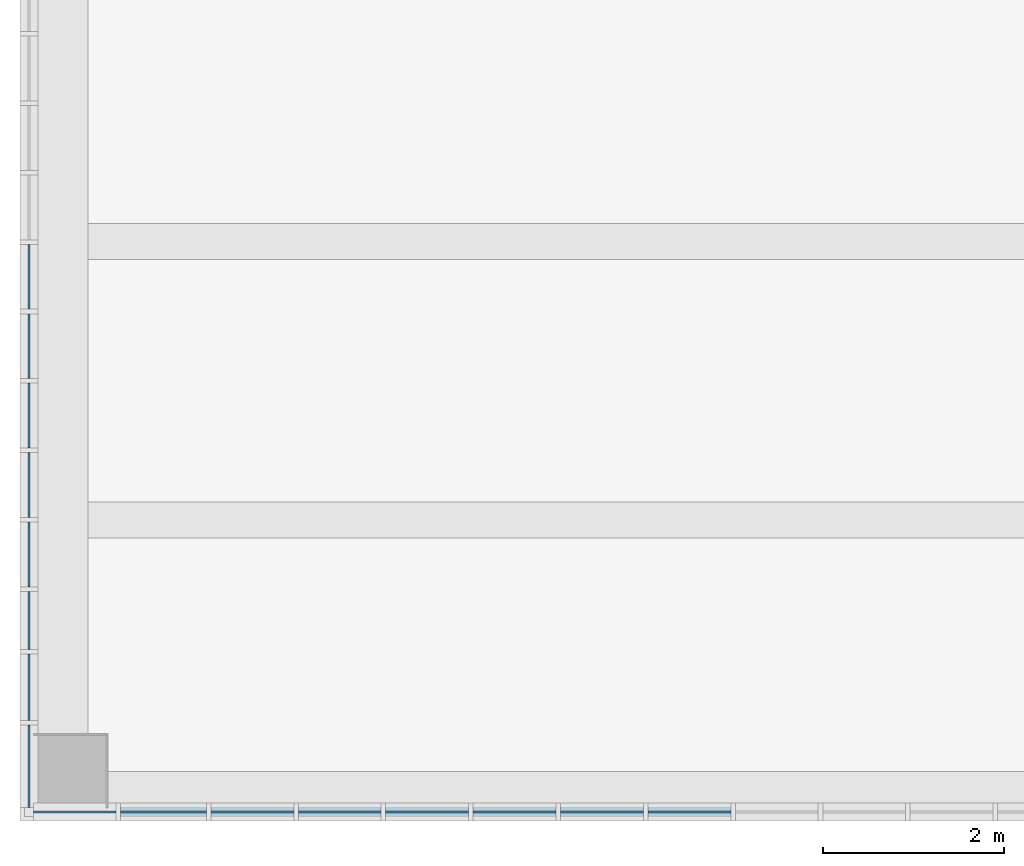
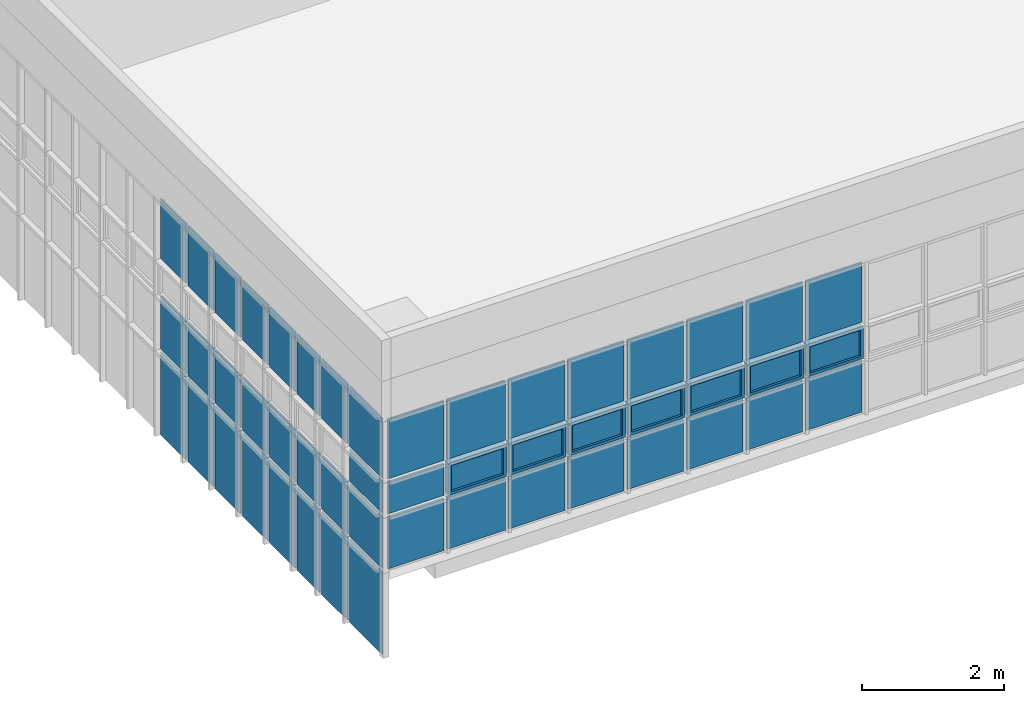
# One storey, part 24 of 81: 49 plates, 2 elements without a shape of their own.
"""IFC2X3 building model written with IfcOpenShell, lengths in millimetres."""

from ifc_helpers import new_model, entity, si_unit, converted_unit, derived_unit, direction, frame, origin, origin_2d_with_axis, place, context, subcontext, project, spatial, polyline, rectangle, outline, extrude, source, transform, mapped, material, material_list, type_object, type_shapes, element, aggregate, save


model = new_model("IFC2X3")

# Units and contexts
model_context = context("Model", 3, precision=0.01, world=origin(), true_north=direction((6.123031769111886e-17, 1.0)))
body_context = subcontext(model_context, "Body", "Model", "MODEL_VIEW")
ifc_project = project(units=[si_unit("LENGTHUNIT", "METRE", prefix="MILLI"), si_unit("AREAUNIT", "SQUARE_METRE"), si_unit("VOLUMEUNIT", "CUBIC_METRE"), converted_unit("PLANEANGLEUNIT", "DEGREE", entity("IfcRatioMeasure", 0.017453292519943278), si_unit("PLANEANGLEUNIT", "RADIAN"), dimensions=[0, 0, 0, 0, 0, 0, 0]), si_unit("MASSUNIT", "GRAM", prefix="KILO"), derived_unit("MASSDENSITYUNIT", [(si_unit("MASSUNIT", "GRAM", prefix="KILO"), 1), (si_unit("LENGTHUNIT", "METRE"), -3)]), derived_unit("MOMENTOFINERTIAUNIT", [(si_unit("LENGTHUNIT", "METRE"), 4)]), si_unit("TIMEUNIT", "SECOND"), si_unit("FREQUENCYUNIT", "HERTZ"), si_unit("THERMODYNAMICTEMPERATUREUNIT", "DEGREE_CELSIUS"), derived_unit("THERMALTRANSMITTANCEUNIT", [(si_unit("MASSUNIT", "GRAM", prefix="KILO"), 1), (si_unit("THERMODYNAMICTEMPERATUREUNIT", "KELVIN"), -1), (si_unit("TIMEUNIT", "SECOND"), -3)]), derived_unit("VOLUMETRICFLOWRATEUNIT", [(si_unit("LENGTHUNIT", "METRE"), 3), (si_unit("TIMEUNIT", "SECOND"), -1)]), derived_unit("MASSFLOWRATEUNIT", [(si_unit("MASSUNIT", "GRAM", prefix="KILO"), 1), (si_unit("TIMEUNIT", "SECOND"), -1)]), derived_unit("ROTATIONALFREQUENCYUNIT", [(si_unit("TIMEUNIT", "SECOND"), -1)]), si_unit("ELECTRICCURRENTUNIT", "AMPERE"), si_unit("ELECTRICVOLTAGEUNIT", "VOLT"), si_unit("POWERUNIT", "WATT"), si_unit("FORCEUNIT", "NEWTON", prefix="KILO"), si_unit("ILLUMINANCEUNIT", "LUX"), si_unit("LUMINOUSFLUXUNIT", "LUMEN"), si_unit("LUMINOUSINTENSITYUNIT", "CANDELA"), derived_unit("USERDEFINED", [(si_unit("MASSUNIT", "GRAM", prefix="KILO"), -1), (si_unit("LENGTHUNIT", "METRE"), -2), (si_unit("TIMEUNIT", "SECOND"), 3), (si_unit("LUMINOUSFLUXUNIT", "LUMEN"), 1)]), derived_unit("SOUNDPOWERUNIT", [(si_unit("MASSUNIT", "GRAM", prefix="KILO"), 1), (si_unit("LENGTHUNIT", "METRE"), 2), (si_unit("TIMEUNIT", "SECOND"), -3)]), derived_unit("SOUNDPRESSUREUNIT", [(si_unit("MASSUNIT", "GRAM", prefix="KILO"), 1), (si_unit("LENGTHUNIT", "METRE"), -1), (si_unit("TIMEUNIT", "SECOND"), -2)]), derived_unit("LINEARVELOCITYUNIT", [(si_unit("LENGTHUNIT", "METRE"), 1), (si_unit("TIMEUNIT", "SECOND"), -1)]), si_unit("PRESSUREUNIT", "PASCAL"), derived_unit("USERDEFINED", [(si_unit("LENGTHUNIT", "METRE"), -2), (si_unit("MASSUNIT", "GRAM", prefix="KILO"), 1), (si_unit("TIMEUNIT", "SECOND"), -2)]), derived_unit("LINEARFORCEUNIT", [(si_unit("MASSUNIT", "GRAM", prefix="KILO"), 1), (si_unit("LENGTHUNIT", "METRE"), 1), (si_unit("TIMEUNIT", "SECOND"), -2), (si_unit("LENGTHUNIT", "METRE"), -1)]), derived_unit("PLANARFORCEUNIT", [(si_unit("MASSUNIT", "GRAM", prefix="KILO"), 1), (si_unit("LENGTHUNIT", "METRE"), 1), (si_unit("TIMEUNIT", "SECOND"), -2), (si_unit("LENGTHUNIT", "METRE"), -2)])], contexts=[model_context])

# Site, building, storey
site_placement = place(None, frame((-14167.972527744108, -657.2125860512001, 0.0)))
site = spatial("IfcSite", under=ifc_project, at=site_placement, Name="Default", CompositionType="ELEMENT")
building_placement = place(site_placement, origin())
building = spatial("IfcBuilding", under=site, at=building_placement, Name="Sample Building", CompositionType="ELEMENT")
storey_placement = place(building_placement, frame((0.0, 0.0, 13400.0)))
storey = spatial("IfcBuildingStorey", under=building, at=storey_placement, Name="지상 4층", CompositionType="ELEMENT", Elevation=13400.00000000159)

# Curtain wall, plates
curtain_wall_type = type_object("IfcCurtainWallType", Name="커튼월:CW112-스테인리스 스틸 커튼월", PredefinedType="NOTDEFINED")
curtain_wall_1_placement = place(storey_placement, frame((0.0, 0.0, -13400.0)))
curtain_wall_1 = element("IfcCurtainWall", 1, at=curtain_wall_1_placement, inside=storey, type_object=curtain_wall_type, Name="커튼월:CW112-스테인리스 스틸 커튼월", ObjectType="커튼월:CW112-스테인리스 스틸 커튼월")
ifc_material_1 = material(Name="KBIMS-로이유리(코팅)")
plate_type_1 = type_object("IfcPlateType", Name="CW300-THK24.Low-e coating glass:CW300-THK24.Low-e coating glass", PredefinedType="CURTAIN_PANEL", material=ifc_material_1)
shared_shape_1 = source(origin(), body_context, "Body", "SweptSolid", [
    extrude(rectangle(XDim=912.3445148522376, YDim=24.000000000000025, at=origin_2d_with_axis()), frame((0.0, 0.0, 0.0), z_axis=(0.0, 0.0, 1.0), x_axis=(-1.0, 0.0, 0.0)), (0.0, 0.0, 1.0), 549.9999999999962),
])
type_shapes(plate_type_1, [shared_shape_1])
plate_1_placement = place(curtain_wall_1_placement, frame((14017.955105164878, 1013.6454496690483, 14425.0), z_axis=(0.0, 0.0, 1.0), x_axis=(0.0, -1.0, 0.0)))
plate_1 = element("IfcPlate", 2, at=plate_1_placement, type_object=plate_type_1, material=ifc_material_1, Name="CW300-THK24.Low-e coating glass:CW300-THK24.Low-e coating glass", ObjectType="CW300-THK24.Low-e coating glass:CW300-THK24.Low-e coating glass", context=body_context, shape_type="MappedRepresentation", body=[
    mapped(shared_shape_1, transform((0.0, 0.0, 0.0), scale=1.0)),
])
plate_type_2 = type_object("IfcPlateType", Name="CW300-THK24.Low-e coating glass:CW300-THK24.Low-e coating glass", PredefinedType="CURTAIN_PANEL", material=ifc_material_1)
shared_shape_2 = source(origin(), body_context, "Body", "SweptSolid", [
    extrude(rectangle(XDim=716.0000000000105, YDim=24.000000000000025, at=origin_2d_with_axis()), frame((0.0, 0.0, 0.0), z_axis=(0.0, 0.0, 1.0), x_axis=(-1.0, 0.0, 0.0)), (0.0, 0.0, 1.0), 1424.9999999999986),
])
type_shapes(plate_type_2, [shared_shape_2])
plate_2_placement = place(curtain_wall_1_placement, frame((14017.955105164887, 6416.817707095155, 12000.0), z_axis=(0.0, 0.0, 1.0), x_axis=(0.0, -1.0, 0.0)))
plate_2 = element("IfcPlate", 3, at=plate_2_placement, type_object=plate_type_2, material=ifc_material_1, Name="CW300-THK24.Low-e coating glass:CW300-THK24.Low-e coating glass", ObjectType="CW300-THK24.Low-e coating glass:CW300-THK24.Low-e coating glass", context=body_context, shape_type="MappedRepresentation", body=[
    mapped(shared_shape_2, transform((0.0, 0.0, 0.0), scale=1.0)),
])
plate_3_placement = place(curtain_wall_1_placement, frame((14017.955105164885, 5650.817707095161, 12000.0), z_axis=(0.0, 0.0, 1.0), x_axis=(0.0, -1.0, 0.0)))
plate_3 = element("IfcPlate", 4, at=plate_3_placement, type_object=plate_type_2, material=ifc_material_1, Name="CW300-THK24.Low-e coating glass:CW300-THK24.Low-e coating glass", ObjectType="CW300-THK24.Low-e coating glass:CW300-THK24.Low-e coating glass", context=body_context, shape_type="MappedRepresentation", body=[
    mapped(shared_shape_2, transform((0.0, 0.0, 0.0), scale=1.0)),
])
plate_4_placement = place(curtain_wall_1_placement, frame((14017.955105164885, 4884.817707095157, 12000.0), z_axis=(0.0, 0.0, 1.0), x_axis=(0.0, -1.0, 0.0)))
plate_4 = element("IfcPlate", 5, at=plate_4_placement, type_object=plate_type_2, material=ifc_material_1, Name="CW300-THK24.Low-e coating glass:CW300-THK24.Low-e coating glass", ObjectType="CW300-THK24.Low-e coating glass:CW300-THK24.Low-e coating glass", context=body_context, shape_type="MappedRepresentation", body=[
    mapped(shared_shape_2, transform((0.0, 0.0, 0.0), scale=1.0)),
])
plate_5_placement = place(curtain_wall_1_placement, frame((14017.955105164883, 4118.817707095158, 12000.0), z_axis=(0.0, 0.0, 1.0), x_axis=(0.0, -1.0, 0.0)))
plate_5 = element("IfcPlate", 6, at=plate_5_placement, type_object=plate_type_2, material=ifc_material_1, Name="CW300-THK24.Low-e coating glass:CW300-THK24.Low-e coating glass", ObjectType="CW300-THK24.Low-e coating glass:CW300-THK24.Low-e coating glass", context=body_context, shape_type="MappedRepresentation", body=[
    mapped(shared_shape_2, transform((0.0, 0.0, 0.0), scale=1.0)),
])
plate_6_placement = place(curtain_wall_1_placement, frame((14017.955105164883, 3352.8177070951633, 12000.0), z_axis=(0.0, 0.0, 1.0), x_axis=(0.0, -1.0, 0.0)))
plate_6 = element("IfcPlate", 7, at=plate_6_placement, type_object=plate_type_2, material=ifc_material_1, Name="CW300-THK24.Low-e coating glass:CW300-THK24.Low-e coating glass", ObjectType="CW300-THK24.Low-e coating glass:CW300-THK24.Low-e coating glass", context=body_context, shape_type="MappedRepresentation", body=[
    mapped(shared_shape_2, transform((0.0, 0.0, 0.0), scale=1.0)),
])
plate_type_3 = type_object("IfcPlateType", Name="CW300-THK24.Low-e coating glass:CW300-THK24.Low-e coating glass", PredefinedType="CURTAIN_PANEL", material=ifc_material_1)
shared_shape_3 = source(origin(), body_context, "Body", "SweptSolid", [
    extrude(rectangle(XDim=641.999999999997, YDim=24.000000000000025, at=origin_2d_with_axis()), frame((0.0, 0.0, 0.0), z_axis=(0.0, 0.0, 1.0), x_axis=(-1.0, 0.0, 0.0)), (0.0, 0.0, 1.0), 1424.9999999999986),
])
type_shapes(plate_type_3, [shared_shape_3])
plate_7_placement = place(curtain_wall_1_placement, frame((14017.955105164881, 2623.8177070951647, 12000.0), z_axis=(0.0, 0.0, 1.0), x_axis=(0.0, -1.0, 0.0)))
plate_7 = element("IfcPlate", 8, at=plate_7_placement, type_object=plate_type_3, material=ifc_material_1, Name="CW300-THK24.Low-e coating glass:CW300-THK24.Low-e coating glass", ObjectType="CW300-THK24.Low-e coating glass:CW300-THK24.Low-e coating glass", context=body_context, shape_type="MappedRepresentation", body=[
    mapped(shared_shape_3, transform((0.0, 0.0, 0.0), scale=1.0)),
])
plate_type_4 = type_object("IfcPlateType", Name="CW300-THK24.Low-e coating glass:CW300-THK24.Low-e coating glass", PredefinedType="CURTAIN_PANEL", material=ifc_material_1)
shared_shape_4 = source(origin(), body_context, "Body", "SweptSolid", [
    extrude(rectangle(XDim=733.0000000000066, YDim=24.000000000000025, at=origin_2d_with_axis()), frame((0.0, 0.0, 0.0), z_axis=(0.0, 0.0, 1.0), x_axis=(-1.0, 0.0, 0.0)), (0.0, 0.0, 1.0), 1424.9999999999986),
])
type_shapes(plate_type_4, [shared_shape_4])
plate_8_placement = place(curtain_wall_1_placement, frame((14017.955105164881, 1886.3177070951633, 12000.0), z_axis=(0.0, 0.0, 1.0), x_axis=(0.0, -1.0, 0.0)))
plate_8 = element("IfcPlate", 9, at=plate_8_placement, type_object=plate_type_4, material=ifc_material_1, Name="CW300-THK24.Low-e coating glass:CW300-THK24.Low-e coating glass", ObjectType="CW300-THK24.Low-e coating glass:CW300-THK24.Low-e coating glass", context=body_context, shape_type="MappedRepresentation", body=[
    mapped(shared_shape_4, transform((0.0, 0.0, 0.0), scale=1.0)),
])
plate_type_5 = type_object("IfcPlateType", Name="CW300-THK24.Low-e coating glass:CW300-THK24.Low-e coating glass", PredefinedType="CURTAIN_PANEL", material=ifc_material_1)
shared_shape_5 = source(origin(), body_context, "Body", "SweptSolid", [
    extrude(rectangle(XDim=912.3445148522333, YDim=24.000000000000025, at=origin_2d_with_axis()), frame((0.0, 0.0, 0.0), z_axis=(0.0, 0.0, 1.0), x_axis=(-1.0, 0.0, 0.0)), (0.0, 0.0, 1.0), 1424.9999999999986),
])
type_shapes(plate_type_5, [shared_shape_5])
plate_9_placement = place(curtain_wall_1_placement, frame((14017.955105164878, 1013.6454496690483, 12000.0), z_axis=(0.0, 0.0, 1.0), x_axis=(0.0, -1.0, 0.0)))
plate_9 = element("IfcPlate", 10, at=plate_9_placement, type_object=plate_type_5, material=ifc_material_1, Name="CW300-THK24.Low-e coating glass:CW300-THK24.Low-e coating glass", ObjectType="CW300-THK24.Low-e coating glass:CW300-THK24.Low-e coating glass", context=body_context, shape_type="MappedRepresentation", body=[
    mapped(shared_shape_5, transform((0.0, 0.0, 0.0), scale=1.0)),
])
plate_type_6 = type_object("IfcPlateType", Name="CW300-THK24.Low-e coating glass:CW300-THK24.Low-e coating glass", PredefinedType="CURTAIN_PANEL", material=ifc_material_1)
shared_shape_6 = source(origin(), body_context, "Body", "SweptSolid", [
    extrude(rectangle(XDim=716.0000000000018, YDim=24.000000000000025, at=origin_2d_with_axis()), frame((0.0, 0.0, 0.0), z_axis=(0.0, 0.0, 1.0), x_axis=(-1.0, 0.0, 0.0)), (0.0, 0.0, 1.0), 899.9999999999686),
])
type_shapes(plate_type_6, [shared_shape_6])
plate_10_placement = place(curtain_wall_1_placement, frame((14017.955105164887, 6416.817707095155, 13475.0), z_axis=(0.0, 0.0, 1.0), x_axis=(0.0, -1.0, 0.0)))
plate_10 = element("IfcPlate", 11, at=plate_10_placement, type_object=plate_type_6, material=ifc_material_1, Name="CW300-THK24.Low-e coating glass:CW300-THK24.Low-e coating glass", ObjectType="CW300-THK24.Low-e coating glass:CW300-THK24.Low-e coating glass", context=body_context, shape_type="MappedRepresentation", body=[
    mapped(shared_shape_6, transform((0.0, 0.0, 0.0), scale=1.0)),
])
plate_11_placement = place(curtain_wall_1_placement, frame((14017.955105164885, 5650.817707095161, 13475.0), z_axis=(0.0, 0.0, 1.0), x_axis=(0.0, -1.0, 0.0)))
plate_11 = element("IfcPlate", 12, at=plate_11_placement, type_object=plate_type_6, material=ifc_material_1, Name="CW300-THK24.Low-e coating glass:CW300-THK24.Low-e coating glass", ObjectType="CW300-THK24.Low-e coating glass:CW300-THK24.Low-e coating glass", context=body_context, shape_type="MappedRepresentation", body=[
    mapped(shared_shape_6, transform((0.0, 0.0, 0.0), scale=1.0)),
])
plate_12_placement = place(curtain_wall_1_placement, frame((14017.955105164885, 4884.817707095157, 13475.0), z_axis=(0.0, 0.0, 1.0), x_axis=(0.0, -1.0, 0.0)))
plate_12 = element("IfcPlate", 13, at=plate_12_placement, type_object=plate_type_6, material=ifc_material_1, Name="CW300-THK24.Low-e coating glass:CW300-THK24.Low-e coating glass", ObjectType="CW300-THK24.Low-e coating glass:CW300-THK24.Low-e coating glass", context=body_context, shape_type="MappedRepresentation", body=[
    mapped(shared_shape_6, transform((0.0, 0.0, 0.0), scale=1.0)),
])
plate_13_placement = place(curtain_wall_1_placement, frame((14017.955105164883, 4118.817707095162, 13475.0), z_axis=(0.0, 0.0, 1.0), x_axis=(0.0, -1.0, 0.0)))
plate_13 = element("IfcPlate", 14, at=plate_13_placement, type_object=plate_type_6, material=ifc_material_1, Name="CW300-THK24.Low-e coating glass:CW300-THK24.Low-e coating glass", ObjectType="CW300-THK24.Low-e coating glass:CW300-THK24.Low-e coating glass", context=body_context, shape_type="MappedRepresentation", body=[
    mapped(shared_shape_6, transform((0.0, 0.0, 0.0), scale=1.0)),
])
plate_14_placement = place(curtain_wall_1_placement, frame((14017.955105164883, 3352.8177070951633, 13475.0), z_axis=(0.0, 0.0, 1.0), x_axis=(0.0, -1.0, 0.0)))
plate_14 = element("IfcPlate", 15, at=plate_14_placement, type_object=plate_type_6, material=ifc_material_1, Name="CW300-THK24.Low-e coating glass:CW300-THK24.Low-e coating glass", ObjectType="CW300-THK24.Low-e coating glass:CW300-THK24.Low-e coating glass", context=body_context, shape_type="MappedRepresentation", body=[
    mapped(shared_shape_6, transform((0.0, 0.0, 0.0), scale=1.0)),
])
plate_type_7 = type_object("IfcPlateType", Name="CW300-THK24.Low-e coating glass:CW300-THK24.Low-e coating glass", PredefinedType="CURTAIN_PANEL", material=ifc_material_1)
shared_shape_7 = source(origin(), body_context, "Body", "SweptSolid", [
    extrude(rectangle(XDim=641.9999999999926, YDim=24.000000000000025, at=origin_2d_with_axis()), frame((0.0, 0.0, 0.0), z_axis=(0.0, 0.0, 1.0), x_axis=(-1.0, 0.0, 0.0)), (0.0, 0.0, 1.0), 899.9999999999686),
])
type_shapes(plate_type_7, [shared_shape_7])
plate_15_placement = place(curtain_wall_1_placement, frame((14017.955105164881, 2623.8177070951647, 13475.0), z_axis=(0.0, 0.0, 1.0), x_axis=(0.0, -1.0, 0.0)))
plate_15 = element("IfcPlate", 16, at=plate_15_placement, type_object=plate_type_7, material=ifc_material_1, Name="CW300-THK24.Low-e coating glass:CW300-THK24.Low-e coating glass", ObjectType="CW300-THK24.Low-e coating glass:CW300-THK24.Low-e coating glass", context=body_context, shape_type="MappedRepresentation", body=[
    mapped(shared_shape_7, transform((0.0, 0.0, 0.0), scale=1.0)),
])
plate_type_8 = type_object("IfcPlateType", Name="CW300-THK24.Low-e coating glass:CW300-THK24.Low-e coating glass", PredefinedType="CURTAIN_PANEL", material=ifc_material_1)
shared_shape_8 = source(origin(), body_context, "Body", "SweptSolid", [
    extrude(rectangle(XDim=733.0000000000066, YDim=24.000000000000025, at=origin_2d_with_axis()), frame((0.0, 0.0, 0.0), z_axis=(0.0, 0.0, 1.0), x_axis=(-1.0, 0.0, 0.0)), (0.0, 0.0, 1.0), 899.9999999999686),
])
type_shapes(plate_type_8, [shared_shape_8])
plate_16_placement = place(curtain_wall_1_placement, frame((14017.955105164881, 1886.3177070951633, 13475.0), z_axis=(0.0, 0.0, 1.0), x_axis=(0.0, -1.0, 0.0)))
plate_16 = element("IfcPlate", 17, at=plate_16_placement, type_object=plate_type_8, material=ifc_material_1, Name="CW300-THK24.Low-e coating glass:CW300-THK24.Low-e coating glass", ObjectType="CW300-THK24.Low-e coating glass:CW300-THK24.Low-e coating glass", context=body_context, shape_type="MappedRepresentation", body=[
    mapped(shared_shape_8, transform((0.0, 0.0, 0.0), scale=1.0)),
])
plate_type_9 = type_object("IfcPlateType", Name="CW300-THK24.Low-e coating glass:CW300-THK24.Low-e coating glass", PredefinedType="CURTAIN_PANEL", material=ifc_material_1)
shared_shape_9 = source(origin(), body_context, "Body", "SweptSolid", [
    extrude(rectangle(XDim=912.3445148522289, YDim=24.000000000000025, at=origin_2d_with_axis()), frame((0.0, 0.0, 0.0), z_axis=(0.0, 0.0, 1.0), x_axis=(-1.0, 0.0, 0.0)), (0.0, 0.0, 1.0), 899.9999999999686),
])
type_shapes(plate_type_9, [shared_shape_9])
plate_17_placement = place(curtain_wall_1_placement, frame((14017.955105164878, 1013.6454496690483, 13475.0), z_axis=(0.0, 0.0, 1.0), x_axis=(0.0, -1.0, 0.0)))
plate_17 = element("IfcPlate", 18, at=plate_17_placement, type_object=plate_type_9, material=ifc_material_1, Name="CW300-THK24.Low-e coating glass:CW300-THK24.Low-e coating glass", ObjectType="CW300-THK24.Low-e coating glass:CW300-THK24.Low-e coating glass", context=body_context, shape_type="MappedRepresentation", body=[
    mapped(shared_shape_9, transform((0.0, 0.0, 0.0), scale=1.0)),
])
plate_type_10 = type_object("IfcPlateType", Name="CW300-THK24.Low-e coating glass:CW300-THK24.Low-e coating glass", PredefinedType="CURTAIN_PANEL", material=ifc_material_1)
shared_shape_10 = source(origin(), body_context, "Body", "SweptSolid", [
    extrude(rectangle(XDim=716.0000000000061, YDim=24.000000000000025, at=origin_2d_with_axis()), frame((0.0, 0.0, 0.0), z_axis=(0.0, 0.0, 1.0), x_axis=(-1.0, 0.0, 0.0)), (0.0, 0.0, 1.0), 1025.0000000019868),
])
type_shapes(plate_type_10, [shared_shape_10])
plate_18_placement = place(curtain_wall_1_placement, frame((14017.955105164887, 6416.817707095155, 15025.0), z_axis=(0.0, 0.0, 1.0), x_axis=(0.0, -1.0, 0.0)))
plate_18 = element("IfcPlate", 19, at=plate_18_placement, type_object=plate_type_10, material=ifc_material_1, Name="CW300-THK24.Low-e coating glass:CW300-THK24.Low-e coating glass", ObjectType="CW300-THK24.Low-e coating glass:CW300-THK24.Low-e coating glass", context=body_context, shape_type="MappedRepresentation", body=[
    mapped(shared_shape_10, transform((0.0, 0.0, 0.0), scale=1.0)),
])
plate_19_placement = place(curtain_wall_1_placement, frame((14017.955105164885, 5650.817707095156, 15025.0), z_axis=(0.0, 0.0, 1.0), x_axis=(0.0, -1.0, 0.0)))
plate_19 = element("IfcPlate", 20, at=plate_19_placement, type_object=plate_type_10, material=ifc_material_1, Name="CW300-THK24.Low-e coating glass:CW300-THK24.Low-e coating glass", ObjectType="CW300-THK24.Low-e coating glass:CW300-THK24.Low-e coating glass", context=body_context, shape_type="MappedRepresentation", body=[
    mapped(shared_shape_10, transform((0.0, 0.0, 0.0), scale=1.0)),
])
plate_20_placement = place(curtain_wall_1_placement, frame((14017.955105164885, 4884.8177070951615, 15025.0), z_axis=(0.0, 0.0, 1.0), x_axis=(0.0, -1.0, 0.0)))
plate_20 = element("IfcPlate", 21, at=plate_20_placement, type_object=plate_type_10, material=ifc_material_1, Name="CW300-THK24.Low-e coating glass:CW300-THK24.Low-e coating glass", ObjectType="CW300-THK24.Low-e coating glass:CW300-THK24.Low-e coating glass", context=body_context, shape_type="MappedRepresentation", body=[
    mapped(shared_shape_10, transform((0.0, 0.0, 0.0), scale=1.0)),
])
plate_21_placement = place(curtain_wall_1_placement, frame((14017.955105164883, 4118.817707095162, 15025.0), z_axis=(0.0, 0.0, 1.0), x_axis=(0.0, -1.0, 0.0)))
plate_21 = element("IfcPlate", 22, at=plate_21_placement, type_object=plate_type_10, material=ifc_material_1, Name="CW300-THK24.Low-e coating glass:CW300-THK24.Low-e coating glass", ObjectType="CW300-THK24.Low-e coating glass:CW300-THK24.Low-e coating glass", context=body_context, shape_type="MappedRepresentation", body=[
    mapped(shared_shape_10, transform((0.0, 0.0, 0.0), scale=1.0)),
])
plate_22_placement = place(curtain_wall_1_placement, frame((14017.955105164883, 3352.8177070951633, 15025.0), z_axis=(0.0, 0.0, 1.0), x_axis=(0.0, -1.0, 0.0)))
plate_22 = element("IfcPlate", 23, at=plate_22_placement, type_object=plate_type_10, material=ifc_material_1, Name="CW300-THK24.Low-e coating glass:CW300-THK24.Low-e coating glass", ObjectType="CW300-THK24.Low-e coating glass:CW300-THK24.Low-e coating glass", context=body_context, shape_type="MappedRepresentation", body=[
    mapped(shared_shape_10, transform((0.0, 0.0, 0.0), scale=1.0)),
])
plate_type_11 = type_object("IfcPlateType", Name="CW300-THK24.Low-e coating glass:CW300-THK24.Low-e coating glass", PredefinedType="CURTAIN_PANEL", material=ifc_material_1)
shared_shape_11 = source(origin(), body_context, "Body", "SweptSolid", [
    extrude(rectangle(XDim=641.9999999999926, YDim=24.000000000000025, at=origin_2d_with_axis()), frame((0.0, 0.0, 0.0), z_axis=(0.0, 0.0, 1.0), x_axis=(-1.0, 0.0, 0.0)), (0.0, 0.0, 1.0), 1025.0000000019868),
])
type_shapes(plate_type_11, [shared_shape_11])
plate_23_placement = place(curtain_wall_1_placement, frame((14017.955105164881, 2623.8177070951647, 15025.0), z_axis=(0.0, 0.0, 1.0), x_axis=(0.0, -1.0, 0.0)))
plate_23 = element("IfcPlate", 24, at=plate_23_placement, type_object=plate_type_11, material=ifc_material_1, Name="CW300-THK24.Low-e coating glass:CW300-THK24.Low-e coating glass", ObjectType="CW300-THK24.Low-e coating glass:CW300-THK24.Low-e coating glass", context=body_context, shape_type="MappedRepresentation", body=[
    mapped(shared_shape_11, transform((0.0, 0.0, 0.0), scale=1.0)),
])
plate_type_12 = type_object("IfcPlateType", Name="CW300-THK24.Low-e coating glass:CW300-THK24.Low-e coating glass", PredefinedType="CURTAIN_PANEL", material=ifc_material_1)
shared_shape_12 = source(origin(), body_context, "Body", "SweptSolid", [
    extrude(rectangle(XDim=733.0000000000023, YDim=24.000000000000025, at=origin_2d_with_axis()), frame((0.0, 0.0, 0.0), z_axis=(0.0, 0.0, 1.0), x_axis=(-1.0, 0.0, 0.0)), (0.0, 0.0, 1.0), 1025.0000000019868),
])
type_shapes(plate_type_12, [shared_shape_12])
plate_24_placement = place(curtain_wall_1_placement, frame((14017.955105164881, 1886.3177070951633, 15025.0), z_axis=(0.0, 0.0, 1.0), x_axis=(0.0, -1.0, 0.0)))
plate_24 = element("IfcPlate", 25, at=plate_24_placement, type_object=plate_type_12, material=ifc_material_1, Name="CW300-THK24.Low-e coating glass:CW300-THK24.Low-e coating glass", ObjectType="CW300-THK24.Low-e coating glass:CW300-THK24.Low-e coating glass", context=body_context, shape_type="MappedRepresentation", body=[
    mapped(shared_shape_12, transform((0.0, 0.0, 0.0), scale=1.0)),
])
plate_type_13 = type_object("IfcPlateType", Name="CW300-THK24.Low-e coating glass:CW300-THK24.Low-e coating glass", PredefinedType="CURTAIN_PANEL", material=ifc_material_1)
shared_shape_13 = source(origin(), body_context, "Body", "SweptSolid", [
    extrude(rectangle(XDim=912.3445148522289, YDim=24.000000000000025, at=origin_2d_with_axis()), frame((0.0, 0.0, 0.0), z_axis=(0.0, 0.0, 1.0), x_axis=(-1.0, 0.0, 0.0)), (0.0, 0.0, 1.0), 1025.0000000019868),
])
type_shapes(plate_type_13, [shared_shape_13])
plate_25_placement = place(curtain_wall_1_placement, frame((14017.955105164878, 1013.6454496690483, 15025.0), z_axis=(0.0, 0.0, 1.0), x_axis=(0.0, -1.0, 0.0)))
plate_25 = element("IfcPlate", 26, at=plate_25_placement, type_object=plate_type_13, material=ifc_material_1, Name="CW300-THK24.Low-e coating glass:CW300-THK24.Low-e coating glass", ObjectType="CW300-THK24.Low-e coating glass:CW300-THK24.Low-e coating glass", context=body_context, shape_type="MappedRepresentation", body=[
    mapped(shared_shape_13, transform((0.0, 0.0, 0.0), scale=1.0)),
])
aggregate(curtain_wall_1, [plate_2, plate_3, plate_4, plate_5, plate_6, plate_7, plate_8, plate_9, plate_10, plate_11, plate_12, plate_13, plate_14, plate_15, plate_16, plate_17, plate_1, plate_18, plate_19, plate_20, plate_21, plate_22, plate_23, plate_24, plate_25])

curtain_wall_2_placement = place(storey_placement, frame((0.0, 0.0, -13400.0)))
curtain_wall_2 = element("IfcCurtainWall", 27, at=curtain_wall_2_placement, inside=storey, type_object=curtain_wall_type, Name="커튼월:CW112-스테인리스 스틸 커튼월", ObjectType="커튼월:CW112-스테인리스 스틸 커튼월")
ifc_material_2 = material(Name="KBIMS-유리")
ifc_material_3 = material(Name="KBIMS-알루미늄")
ifc_material_list_1 = material_list([ifc_material_2, ifc_material_3])
ifc_material_list_2 = material_list([ifc_material_2, ifc_material_3])
plate_type_14 = type_object("IfcPlateType", Name="CW410-프로젝트 창:CW410-프로젝트 창 (하부개폐)", PredefinedType="CURTAIN_PANEL", material=ifc_material_list_2)
shared_shape_14 = source(origin(), body_context, "Body", "SweptSolid", [
    extrude(rectangle(XDim=845.0000000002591, YDim=23.999999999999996, at=origin_2d_with_axis()), frame((0.0, -0.04999999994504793, 50.0), z_axis=(0.0, 0.0, 1.0), x_axis=(-1.0, 0.0, 0.0)), (0.0, 0.0, 1.0), 450.0000000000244),
    extrude(outline(polyline([(-472.4999999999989, -275.0), (472.4999999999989, -275.0), (472.4999999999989, 275.0), (-472.4999999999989, 275.0), (-472.4999999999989, -275.0)]), holes=[polyline([(-422.50000000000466, -225.0), (-422.5000000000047, 225.0), (422.5000000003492, 225.0), (422.50000000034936, -225.0), (-422.50000000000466, -225.0)])]), frame((0.0, -50.04999999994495, 275.0), z_axis=(0.0, 1.0, 0.0), x_axis=(1.0, 0.0, 0.0)), (0.0, 0.0, 1.0), 99.99999999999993),
])
type_shapes(plate_type_14, [shared_shape_14])
plate_26_placement = place(curtain_wall_2_placement, frame((15502.656070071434, 507.2122951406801, 14425.0)))
plate_26 = element("IfcPlate", 28, at=plate_26_placement, type_object=plate_type_14, material=ifc_material_list_1, Name="CW410-프로젝트 창:CW410-프로젝트 창 (하부개폐)", ObjectType="CW410-프로젝트 창:CW410-프로젝트 창 (하부개폐)", context=body_context, shape_type="MappedRepresentation", body=[
    mapped(shared_shape_14, transform((0.0, 0.0, 0.0), scale=1.0)),
])
ifc_material_list_3 = material_list([ifc_material_2, ifc_material_3])
ifc_material_list_4 = material_list([ifc_material_2, ifc_material_3])
plate_type_15 = type_object("IfcPlateType", Name="CW410-프로젝트 창:CW410-프로젝트 창 (하부개폐)", PredefinedType="CURTAIN_PANEL", material=ifc_material_list_4)
shared_shape_15 = source(origin(), body_context, "Body", "SweptSolid", [
    extrude(rectangle(XDim=815.0000000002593, YDim=23.999999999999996, at=origin_2d_with_axis()), frame((0.0, -0.04999999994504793, 50.0), z_axis=(0.0, 0.0, 1.0), x_axis=(-1.0, 0.0, 0.0)), (0.0, 0.0, 1.0), 450.0000000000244),
    extrude(outline(polyline([(-457.4999999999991, -275.0), (457.4999999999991, -275.0), (457.4999999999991, 275.0), (-457.4999999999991, 275.0), (-457.4999999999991, -275.0)]), holes=[polyline([(-407.50000000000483, -225.0), (-407.5000000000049, 225.0), (407.50000000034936, 225.0), (407.50000000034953, -225.0), (-407.50000000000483, -225.0)])]), frame((0.0, -50.04999999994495, 275.0), z_axis=(0.0, 1.0, 0.0), x_axis=(1.0, 0.0, 0.0)), (0.0, 0.0, 1.0), 99.99999999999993),
])
type_shapes(plate_type_15, [shared_shape_15])
plate_27_placement = place(curtain_wall_2_placement, frame((16482.656070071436, 507.212295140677, 14425.0)))
plate_27 = element("IfcPlate", 29, at=plate_27_placement, type_object=plate_type_15, material=ifc_material_list_3, Name="CW410-프로젝트 창:CW410-프로젝트 창 (하부개폐)", ObjectType="CW410-프로젝트 창:CW410-프로젝트 창 (하부개폐)", context=body_context, shape_type="MappedRepresentation", body=[
    mapped(shared_shape_15, transform((0.0, 0.0, 0.0), scale=1.0)),
])
ifc_material_list_5 = material_list([ifc_material_2, ifc_material_3])
plate_28_placement = place(curtain_wall_2_placement, frame((17447.656070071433, 507.2122951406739, 14425.0)))
plate_28 = element("IfcPlate", 30, at=plate_28_placement, type_object=plate_type_15, material=ifc_material_list_5, Name="CW410-프로젝트 창:CW410-프로젝트 창 (하부개폐)", ObjectType="CW410-프로젝트 창:CW410-프로젝트 창 (하부개폐)", context=body_context, shape_type="MappedRepresentation", body=[
    mapped(shared_shape_15, transform((0.0, 0.0, 0.0), scale=1.0)),
])
ifc_material_list_6 = material_list([ifc_material_2, ifc_material_3])
plate_29_placement = place(curtain_wall_2_placement, frame((18412.656070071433, 507.2122951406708, 14425.0)))
plate_29 = element("IfcPlate", 31, at=plate_29_placement, type_object=plate_type_15, material=ifc_material_list_6, Name="CW410-프로젝트 창:CW410-프로젝트 창 (하부개폐)", ObjectType="CW410-프로젝트 창:CW410-프로젝트 창 (하부개폐)", context=body_context, shape_type="MappedRepresentation", body=[
    mapped(shared_shape_15, transform((0.0, 0.0, 0.0), scale=1.0)),
])
ifc_material_list_7 = material_list([ifc_material_2, ifc_material_3])
plate_30_placement = place(curtain_wall_2_placement, frame((19377.656070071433, 507.21229514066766, 14425.0)))
plate_30 = element("IfcPlate", 32, at=plate_30_placement, type_object=plate_type_15, material=ifc_material_list_7, Name="CW410-프로젝트 창:CW410-프로젝트 창 (하부개폐)", ObjectType="CW410-프로젝트 창:CW410-프로젝트 창 (하부개폐)", context=body_context, shape_type="MappedRepresentation", body=[
    mapped(shared_shape_15, transform((0.0, 0.0, 0.0), scale=1.0)),
])
ifc_material_list_8 = material_list([ifc_material_2, ifc_material_3])
plate_31_placement = place(curtain_wall_2_placement, frame((20342.65607007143, 507.2122951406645, 14425.0)))
plate_31 = element("IfcPlate", 33, at=plate_31_placement, type_object=plate_type_15, material=ifc_material_list_8, Name="CW410-프로젝트 창:CW410-프로젝트 창 (하부개폐)", ObjectType="CW410-프로젝트 창:CW410-프로젝트 창 (하부개폐)", context=body_context, shape_type="MappedRepresentation", body=[
    mapped(shared_shape_15, transform((0.0, 0.0, 0.0), scale=1.0)),
])
ifc_material_list_9 = material_list([ifc_material_2, ifc_material_3])
plate_32_placement = place(curtain_wall_2_placement, frame((21307.656070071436, 507.21229514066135, 14425.0)))
plate_32 = element("IfcPlate", 34, at=plate_32_placement, type_object=plate_type_15, material=ifc_material_list_9, Name="CW410-프로젝트 창:CW410-프로젝트 창 (하부개폐)", ObjectType="CW410-프로젝트 창:CW410-프로젝트 창 (하부개폐)", context=body_context, shape_type="MappedRepresentation", body=[
    mapped(shared_shape_15, transform((0.0, 0.0, 0.0), scale=1.0)),
])
plate_type_16 = type_object("IfcPlateType", Name="CW300-THK24.Low-e coating glass:CW300-THK24.Low-e coating glass", PredefinedType="CURTAIN_PANEL", material=ifc_material_1)
shared_shape_16 = source(origin(), body_context, "Body", "SweptSolid", [
    extrude(rectangle(XDim=912.8164152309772, YDim=24.000000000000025, at=origin_2d_with_axis()), frame((0.0, 0.0, 0.0), z_axis=(0.0, 0.0, 1.0), x_axis=(-1.0, 0.0, 0.0)), (0.0, 0.0, 1.0), 894.9999999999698),
])
type_shapes(plate_type_16, [shared_shape_16])
plate_33_placement = place(curtain_wall_2_placement, frame((14523.747862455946, 507.2122951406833, 13480.0)))
plate_33 = element("IfcPlate", 35, at=plate_33_placement, type_object=plate_type_16, material=ifc_material_1, Name="CW300-THK24.Low-e coating glass:CW300-THK24.Low-e coating glass", ObjectType="CW300-THK24.Low-e coating glass:CW300-THK24.Low-e coating glass", context=body_context, shape_type="MappedRepresentation", body=[
    mapped(shared_shape_16, transform((0.0, 0.0, 0.0), scale=1.0)),
])
plate_type_17 = type_object("IfcPlateType", Name="CW300-THK24.Low-e coating glass:CW300-THK24.Low-e coating glass", PredefinedType="CURTAIN_PANEL", material=ifc_material_1)
shared_shape_17 = source(origin(), body_context, "Body", "SweptSolid", [
    extrude(rectangle(XDim=944.9999999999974, YDim=24.000000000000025, at=origin_2d_with_axis()), frame((0.0, 0.0, 0.0), z_axis=(0.0, 0.0, 1.0), x_axis=(-1.0, 0.0, 0.0)), (0.0, 0.0, 1.0), 894.9999999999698),
])
type_shapes(plate_type_17, [shared_shape_17])
plate_34_placement = place(curtain_wall_2_placement, frame((15502.656070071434, 507.2122951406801, 13480.0)))
plate_34 = element("IfcPlate", 36, at=plate_34_placement, type_object=plate_type_17, material=ifc_material_1, Name="CW300-THK24.Low-e coating glass:CW300-THK24.Low-e coating glass", ObjectType="CW300-THK24.Low-e coating glass:CW300-THK24.Low-e coating glass", context=body_context, shape_type="MappedRepresentation", body=[
    mapped(shared_shape_17, transform((0.0, 0.0, 0.0), scale=1.0)),
])
plate_type_18 = type_object("IfcPlateType", Name="CW300-THK24.Low-e coating glass:CW300-THK24.Low-e coating glass", PredefinedType="CURTAIN_PANEL", material=ifc_material_1)
shared_shape_18 = source(origin(), body_context, "Body", "SweptSolid", [
    extrude(rectangle(XDim=914.9999999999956, YDim=24.000000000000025, at=origin_2d_with_axis()), frame((0.0, 0.0, 0.0), z_axis=(0.0, 0.0, 1.0), x_axis=(-1.0, 0.0, 0.0)), (0.0, 0.0, 1.0), 894.9999999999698),
])
type_shapes(plate_type_18, [shared_shape_18])
plate_35_placement = place(curtain_wall_2_placement, frame((16482.656070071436, 507.212295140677, 13480.0)))
plate_35 = element("IfcPlate", 37, at=plate_35_placement, type_object=plate_type_18, material=ifc_material_1, Name="CW300-THK24.Low-e coating glass:CW300-THK24.Low-e coating glass", ObjectType="CW300-THK24.Low-e coating glass:CW300-THK24.Low-e coating glass", context=body_context, shape_type="MappedRepresentation", body=[
    mapped(shared_shape_18, transform((0.0, 0.0, 0.0), scale=1.0)),
])
plate_36_placement = place(curtain_wall_2_placement, frame((17447.656070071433, 507.2122951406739, 13480.0)))
plate_36 = element("IfcPlate", 38, at=plate_36_placement, type_object=plate_type_18, material=ifc_material_1, Name="CW300-THK24.Low-e coating glass:CW300-THK24.Low-e coating glass", ObjectType="CW300-THK24.Low-e coating glass:CW300-THK24.Low-e coating glass", context=body_context, shape_type="MappedRepresentation", body=[
    mapped(shared_shape_18, transform((0.0, 0.0, 0.0), scale=1.0)),
])
plate_37_placement = place(curtain_wall_2_placement, frame((18412.656070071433, 507.2122951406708, 13480.0)))
plate_37 = element("IfcPlate", 39, at=plate_37_placement, type_object=plate_type_18, material=ifc_material_1, Name="CW300-THK24.Low-e coating glass:CW300-THK24.Low-e coating glass", ObjectType="CW300-THK24.Low-e coating glass:CW300-THK24.Low-e coating glass", context=body_context, shape_type="MappedRepresentation", body=[
    mapped(shared_shape_18, transform((0.0, 0.0, 0.0), scale=1.0)),
])
plate_38_placement = place(curtain_wall_2_placement, frame((19377.65607007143, 507.21229514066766, 13480.0)))
plate_38 = element("IfcPlate", 40, at=plate_38_placement, type_object=plate_type_18, material=ifc_material_1, Name="CW300-THK24.Low-e coating glass:CW300-THK24.Low-e coating glass", ObjectType="CW300-THK24.Low-e coating glass:CW300-THK24.Low-e coating glass", context=body_context, shape_type="MappedRepresentation", body=[
    mapped(shared_shape_18, transform((0.0, 0.0, 0.0), scale=1.0)),
])
plate_39_placement = place(curtain_wall_2_placement, frame((20342.65607007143, 507.2122951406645, 13480.0)))
plate_39 = element("IfcPlate", 41, at=plate_39_placement, type_object=plate_type_18, material=ifc_material_1, Name="CW300-THK24.Low-e coating glass:CW300-THK24.Low-e coating glass", ObjectType="CW300-THK24.Low-e coating glass:CW300-THK24.Low-e coating glass", context=body_context, shape_type="MappedRepresentation", body=[
    mapped(shared_shape_18, transform((0.0, 0.0, 0.0), scale=1.0)),
])
plate_40_placement = place(curtain_wall_2_placement, frame((21307.656070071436, 507.21229514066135, 13480.0)))
plate_40 = element("IfcPlate", 42, at=plate_40_placement, type_object=plate_type_18, material=ifc_material_1, Name="CW300-THK24.Low-e coating glass:CW300-THK24.Low-e coating glass", ObjectType="CW300-THK24.Low-e coating glass:CW300-THK24.Low-e coating glass", context=body_context, shape_type="MappedRepresentation", body=[
    mapped(shared_shape_18, transform((0.0, 0.0, 0.0), scale=1.0)),
])
plate_type_19 = type_object("IfcPlateType", Name="CW300-THK24.Low-e coating glass:CW300-THK24.Low-e coating glass", PredefinedType="CURTAIN_PANEL", material=ifc_material_1)
shared_shape_19 = source(origin(), body_context, "Body", "SweptSolid", [
    extrude(rectangle(XDim=912.8164152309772, YDim=24.000000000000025, at=origin_2d_with_axis()), frame((0.0, 0.0, 0.0), z_axis=(0.0, 0.0, 1.0), x_axis=(-1.0, 0.0, 0.0)), (0.0, 0.0, 1.0), 549.9999999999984),
])
type_shapes(plate_type_19, [shared_shape_19])
plate_41_placement = place(curtain_wall_2_placement, frame((14523.747862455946, 507.2122951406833, 14425.0)))
plate_41 = element("IfcPlate", 43, at=plate_41_placement, type_object=plate_type_19, material=ifc_material_1, Name="CW300-THK24.Low-e coating glass:CW300-THK24.Low-e coating glass", ObjectType="CW300-THK24.Low-e coating glass:CW300-THK24.Low-e coating glass", context=body_context, shape_type="MappedRepresentation", body=[
    mapped(shared_shape_19, transform((0.0, 0.0, 0.0), scale=1.0)),
])
plate_type_20 = type_object("IfcPlateType", Name="CW300-THK24.Low-e coating glass:CW300-THK24.Low-e coating glass", PredefinedType="CURTAIN_PANEL", material=ifc_material_1)
shared_shape_20 = source(origin(), body_context, "Body", "SweptSolid", [
    extrude(rectangle(XDim=912.8164152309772, YDim=24.000000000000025, at=origin_2d_with_axis()), frame((0.0, 0.0, 0.0), z_axis=(0.0, 0.0, 1.0), x_axis=(-1.0, 0.0, 0.0)), (0.0, 0.0, 1.0), 1025.0000000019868),
])
type_shapes(plate_type_20, [shared_shape_20])
plate_42_placement = place(curtain_wall_2_placement, frame((14523.747862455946, 507.2122951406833, 15025.0)))
plate_42 = element("IfcPlate", 44, at=plate_42_placement, type_object=plate_type_20, material=ifc_material_1, Name="CW300-THK24.Low-e coating glass:CW300-THK24.Low-e coating glass", ObjectType="CW300-THK24.Low-e coating glass:CW300-THK24.Low-e coating glass", context=body_context, shape_type="MappedRepresentation", body=[
    mapped(shared_shape_20, transform((0.0, 0.0, 0.0), scale=1.0)),
])
plate_type_21 = type_object("IfcPlateType", Name="CW300-THK24.Low-e coating glass:CW300-THK24.Low-e coating glass", PredefinedType="CURTAIN_PANEL", material=ifc_material_1)
shared_shape_21 = source(origin(), body_context, "Body", "SweptSolid", [
    extrude(rectangle(XDim=945.0000000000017, YDim=24.000000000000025, at=origin_2d_with_axis()), frame((0.0, 0.0, 0.0), z_axis=(0.0, 0.0, 1.0), x_axis=(-1.0, 0.0, 0.0)), (0.0, 0.0, 1.0), 1025.0000000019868),
])
type_shapes(plate_type_21, [shared_shape_21])
plate_43_placement = place(curtain_wall_2_placement, frame((15502.656070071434, 507.2122951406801, 15025.0)))
plate_43 = element("IfcPlate", 45, at=plate_43_placement, type_object=plate_type_21, material=ifc_material_1, Name="CW300-THK24.Low-e coating glass:CW300-THK24.Low-e coating glass", ObjectType="CW300-THK24.Low-e coating glass:CW300-THK24.Low-e coating glass", context=body_context, shape_type="MappedRepresentation", body=[
    mapped(shared_shape_21, transform((0.0, 0.0, 0.0), scale=1.0)),
])
plate_type_22 = type_object("IfcPlateType", Name="CW300-THK24.Low-e coating glass:CW300-THK24.Low-e coating glass", PredefinedType="CURTAIN_PANEL", material=ifc_material_1)
shared_shape_22 = source(origin(), body_context, "Body", "SweptSolid", [
    extrude(rectangle(XDim=914.9999999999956, YDim=24.000000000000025, at=origin_2d_with_axis()), frame((0.0, 0.0, 0.0), z_axis=(0.0, 0.0, 1.0), x_axis=(-1.0, 0.0, 0.0)), (0.0, 0.0, 1.0), 1025.0000000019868),
])
type_shapes(plate_type_22, [shared_shape_22])
plate_44_placement = place(curtain_wall_2_placement, frame((16482.656070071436, 507.212295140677, 15025.0)))
plate_44 = element("IfcPlate", 46, at=plate_44_placement, type_object=plate_type_22, material=ifc_material_1, Name="CW300-THK24.Low-e coating glass:CW300-THK24.Low-e coating glass", ObjectType="CW300-THK24.Low-e coating glass:CW300-THK24.Low-e coating glass", context=body_context, shape_type="MappedRepresentation", body=[
    mapped(shared_shape_22, transform((0.0, 0.0, 0.0), scale=1.0)),
])
plate_45_placement = place(curtain_wall_2_placement, frame((17447.656070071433, 507.2122951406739, 15025.0)))
plate_45 = element("IfcPlate", 47, at=plate_45_placement, type_object=plate_type_22, material=ifc_material_1, Name="CW300-THK24.Low-e coating glass:CW300-THK24.Low-e coating glass", ObjectType="CW300-THK24.Low-e coating glass:CW300-THK24.Low-e coating glass", context=body_context, shape_type="MappedRepresentation", body=[
    mapped(shared_shape_22, transform((0.0, 0.0, 0.0), scale=1.0)),
])
plate_46_placement = place(curtain_wall_2_placement, frame((18412.656070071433, 507.2122951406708, 15025.0)))
plate_46 = element("IfcPlate", 48, at=plate_46_placement, type_object=plate_type_22, material=ifc_material_1, Name="CW300-THK24.Low-e coating glass:CW300-THK24.Low-e coating glass", ObjectType="CW300-THK24.Low-e coating glass:CW300-THK24.Low-e coating glass", context=body_context, shape_type="MappedRepresentation", body=[
    mapped(shared_shape_22, transform((0.0, 0.0, 0.0), scale=1.0)),
])
plate_47_placement = place(curtain_wall_2_placement, frame((19377.656070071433, 507.21229514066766, 15025.0)))
plate_47 = element("IfcPlate", 49, at=plate_47_placement, type_object=plate_type_22, material=ifc_material_1, Name="CW300-THK24.Low-e coating glass:CW300-THK24.Low-e coating glass", ObjectType="CW300-THK24.Low-e coating glass:CW300-THK24.Low-e coating glass", context=body_context, shape_type="MappedRepresentation", body=[
    mapped(shared_shape_22, transform((0.0, 0.0, 0.0), scale=1.0)),
])
plate_48_placement = place(curtain_wall_2_placement, frame((20342.65607007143, 507.2122951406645, 15025.0)))
plate_48 = element("IfcPlate", 50, at=plate_48_placement, type_object=plate_type_22, material=ifc_material_1, Name="CW300-THK24.Low-e coating glass:CW300-THK24.Low-e coating glass", ObjectType="CW300-THK24.Low-e coating glass:CW300-THK24.Low-e coating glass", context=body_context, shape_type="MappedRepresentation", body=[
    mapped(shared_shape_22, transform((0.0, 0.0, 0.0), scale=1.0)),
])
plate_49_placement = place(curtain_wall_2_placement, frame((21307.656070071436, 507.21229514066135, 15025.0)))
plate_49 = element("IfcPlate", 51, at=plate_49_placement, type_object=plate_type_22, material=ifc_material_1, Name="CW300-THK24.Low-e coating glass:CW300-THK24.Low-e coating glass", ObjectType="CW300-THK24.Low-e coating glass:CW300-THK24.Low-e coating glass", context=body_context, shape_type="MappedRepresentation", body=[
    mapped(shared_shape_22, transform((0.0, 0.0, 0.0), scale=1.0)),
])
aggregate(curtain_wall_2, [plate_33, plate_34, plate_35, plate_36, plate_37, plate_38, plate_39, plate_40, plate_41, plate_26, plate_27, plate_28, plate_29, plate_30, plate_31, plate_32, plate_42, plate_43, plate_44, plate_45, plate_46, plate_47, plate_48, plate_49])

save(model, "model.ifc")
